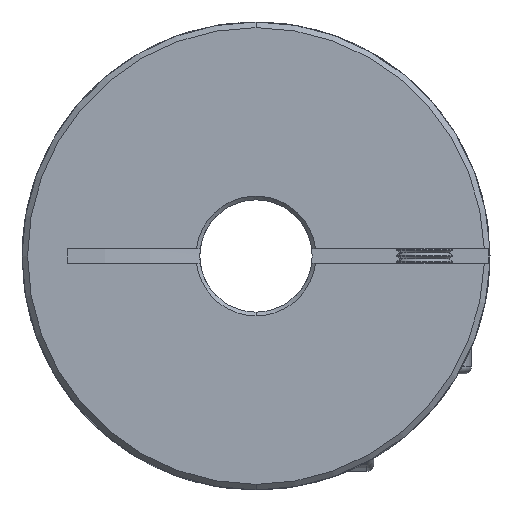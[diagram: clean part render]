
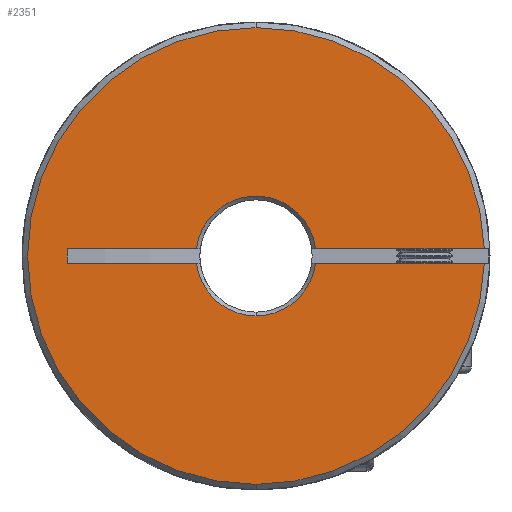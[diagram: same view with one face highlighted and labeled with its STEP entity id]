
A CAD part, front view. The second image highlights one B-rep face of the part: STEP entity #2351.
In plain terms, the highlighted planar face has unit normal (0, -1, 0).
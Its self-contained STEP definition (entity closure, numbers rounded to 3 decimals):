
#162 = VECTOR ( 'NONE', #15287, 1000. ) ;
#329 = AXIS2_PLACEMENT_3D ( 'NONE', #14187, #14240, #6246 ) ;
#347 = EDGE_CURVE ( 'NONE', #2383, #11440, #14284, .T. ) ;
#391 = ORIENTED_EDGE ( 'NONE', *, *, #16880, .T. ) ;
#571 = DIRECTION ( 'NONE',  ( 0., 0., 1. ) ) ;
#883 = AXIS2_PLACEMENT_3D ( 'NONE', #5618, #4684, #571 ) ;
#986 = EDGE_CURVE ( 'NONE', #3581, #4787, #14060, .T. ) ;
#1234 = ORIENTED_EDGE ( 'NONE', *, *, #16308, .T. ) ;
#1403 = CIRCLE ( 'NONE', #8759, 24.4 ) ;
#1496 = ORIENTED_EDGE ( 'NONE', *, *, #2846, .T. ) ;
#1960 = ORIENTED_EDGE ( 'NONE', *, *, #11089, .T. ) ;
#2075 = CIRCLE ( 'NONE', #6129, 6.4 ) ;
#2083 = DIRECTION ( 'NONE',  ( 0., 0., 1. ) ) ;
#2351 = ADVANCED_FACE ( 'NONE', ( #15705 ), #15198, .F. ) ;
#2383 = VERTEX_POINT ( 'NONE', #10276 ) ;
#2488 = CIRCLE ( 'NONE', #883, 6.4 ) ;
#2604 = CARTESIAN_POINT ( 'NONE',  ( -50., 0., 0.75 ) ) ;
#2636 = DIRECTION ( 'NONE',  ( 0., 0., 1. ) ) ;
#2658 = CIRCLE ( 'NONE', #16785, 24.4 ) ;
#2846 = EDGE_CURVE ( 'NONE', #9282, #7920, #16311, .T. ) ;
#3085 = CARTESIAN_POINT ( 'NONE',  ( 6.356, 0., -0.75 ) ) ;
#3494 = VERTEX_POINT ( 'NONE', #3085 ) ;
#3581 = VERTEX_POINT ( 'NONE', #8593 ) ;
#3726 = AXIS2_PLACEMENT_3D ( 'NONE', #13963, #9758, #7103 ) ;
#3884 = ORIENTED_EDGE ( 'NONE', *, *, #7086, .T. ) ;
#3924 = CARTESIAN_POINT ( 'NONE',  ( 6.356, 0., 0.75 ) ) ;
#3990 = ORIENTED_EDGE ( 'NONE', *, *, #5932, .T. ) ;
#4223 = VECTOR ( 'NONE', #2636, 1000. ) ;
#4365 = ORIENTED_EDGE ( 'NONE', *, *, #986, .T. ) ;
#4517 = CARTESIAN_POINT ( 'NONE',  ( -50., 0., -0.75 ) ) ;
#4525 = ORIENTED_EDGE ( 'NONE', *, *, #11975, .F. ) ;
#4633 = ORIENTED_EDGE ( 'NONE', *, *, #6725, .T. ) ;
#4635 = LINE ( 'NONE', #16394, #4223 ) ;
#4655 = VECTOR ( 'NONE', #8219, 1000. ) ;
#4684 = DIRECTION ( 'NONE',  ( 0., 1., 0. ) ) ;
#4724 = CARTESIAN_POINT ( 'NONE',  ( 0., 0., 0. ) ) ;
#4775 = ORIENTED_EDGE ( 'NONE', *, *, #16047, .F. ) ;
#4780 = DIRECTION ( 'NONE',  ( 0., 0., 1. ) ) ;
#4787 = VERTEX_POINT ( 'NONE', #6391 ) ;
#5558 = DIRECTION ( 'NONE',  ( 0., 1., 0. ) ) ;
#5603 = CARTESIAN_POINT ( 'NONE',  ( 0., 0., 0. ) ) ;
#5618 = CARTESIAN_POINT ( 'NONE',  ( 0., 0., 0. ) ) ;
#5633 = CARTESIAN_POINT ( 'NONE',  ( -20.149, 0., -0.75 ) ) ;
#5932 = EDGE_CURVE ( 'NONE', #3494, #2383, #2075, .T. ) ;
#6129 = AXIS2_PLACEMENT_3D ( 'NONE', #5603, #5558, #6925 ) ;
#6203 = AXIS2_PLACEMENT_3D ( 'NONE', #14298, #7354, #4780 ) ;
#6246 = DIRECTION ( 'NONE',  ( 0., 0., 1. ) ) ;
#6391 = CARTESIAN_POINT ( 'NONE',  ( 0., 0., -24.4 ) ) ;
#6515 = CARTESIAN_POINT ( 'NONE',  ( -6.356, 0., -0.75 ) ) ;
#6725 = EDGE_CURVE ( 'NONE', #4787, #16049, #1403, .T. ) ;
#6925 = DIRECTION ( 'NONE',  ( 0., 0., 1. ) ) ;
#7086 = EDGE_CURVE ( 'NONE', #7920, #3581, #2658, .T. ) ;
#7103 = DIRECTION ( 'NONE',  ( 0., 0., 1. ) ) ;
#7354 = DIRECTION ( 'NONE',  ( 0., 1., 0. ) ) ;
#7502 = CARTESIAN_POINT ( 'NONE',  ( 24.388, 0., -0.75 ) ) ;
#7920 = VERTEX_POINT ( 'NONE', #9555 ) ;
#8219 = DIRECTION ( 'NONE',  ( 1., 0., 0. ) ) ;
#8593 = CARTESIAN_POINT ( 'NONE',  ( 0., 0., 24.4 ) ) ;
#8635 = DIRECTION ( 'NONE',  ( 1., 0., 0. ) ) ;
#8717 = VECTOR ( 'NONE', #14616, 1000. ) ;
#8759 = AXIS2_PLACEMENT_3D ( 'NONE', #13429, #16103, #12189 ) ;
#9075 = VERTEX_POINT ( 'NONE', #16723 ) ;
#9282 = VERTEX_POINT ( 'NONE', #3924 ) ;
#9555 = CARTESIAN_POINT ( 'NONE',  ( 24.388, 0., 0.75 ) ) ;
#9744 = LINE ( 'NONE', #16828, #14204 ) ;
#9758 = DIRECTION ( 'NONE',  ( 0., 1., 0. ) ) ;
#9892 = VERTEX_POINT ( 'NONE', #12131 ) ;
#10171 = DIRECTION ( 'NONE',  ( 0., -1., 0. ) ) ;
#10276 = CARTESIAN_POINT ( 'NONE',  ( 0., 0., -6.4 ) ) ;
#10921 = LINE ( 'NONE', #4517, #162 ) ;
#11089 = EDGE_CURVE ( 'NONE', #9892, #9282, #2488, .T. ) ;
#11350 = EDGE_LOOP ( 'NONE', ( #4775, #3990, #14129, #4525, #391, #1234, #1960, #1496, #3884, #4365, #4633 ) ) ;
#11440 = VERTEX_POINT ( 'NONE', #6515 ) ;
#11975 = EDGE_CURVE ( 'NONE', #15445, #11440, #10921, .T. ) ;
#12131 = CARTESIAN_POINT ( 'NONE',  ( -6.356, 0., 0.75 ) ) ;
#12189 = DIRECTION ( 'NONE',  ( 0., 0., 1. ) ) ;
#13429 = CARTESIAN_POINT ( 'NONE',  ( 0., 0., 0. ) ) ;
#13760 = LINE ( 'NONE', #2604, #4655 ) ;
#13963 = CARTESIAN_POINT ( 'NONE',  ( -50., 0., 32.858 ) ) ;
#14060 = CIRCLE ( 'NONE', #329, 24.4 ) ;
#14129 = ORIENTED_EDGE ( 'NONE', *, *, #347, .T. ) ;
#14187 = CARTESIAN_POINT ( 'NONE',  ( 0., 0., 0. ) ) ;
#14204 = VECTOR ( 'NONE', #8635, 1000. ) ;
#14240 = DIRECTION ( 'NONE',  ( 0., -1., 0. ) ) ;
#14284 = CIRCLE ( 'NONE', #6203, 6.4 ) ;
#14298 = CARTESIAN_POINT ( 'NONE',  ( 0., 0., 0. ) ) ;
#14616 = DIRECTION ( 'NONE',  ( 1., 0., 0. ) ) ;
#14669 = CARTESIAN_POINT ( 'NONE',  ( -50., 0., 0.75 ) ) ;
#15198 = PLANE ( 'NONE',  #3726 ) ;
#15287 = DIRECTION ( 'NONE',  ( 1., 0., 0. ) ) ;
#15445 = VERTEX_POINT ( 'NONE', #5633 ) ;
#15705 = FACE_OUTER_BOUND ( 'NONE', #11350, .T. ) ;
#16047 = EDGE_CURVE ( 'NONE', #3494, #16049, #9744, .T. ) ;
#16049 = VERTEX_POINT ( 'NONE', #7502 ) ;
#16103 = DIRECTION ( 'NONE',  ( 0., -1., 0. ) ) ;
#16308 = EDGE_CURVE ( 'NONE', #9075, #9892, #13760, .T. ) ;
#16311 = LINE ( 'NONE', #14669, #8717 ) ;
#16394 = CARTESIAN_POINT ( 'NONE',  ( -20.149, 0., -0.75 ) ) ;
#16723 = CARTESIAN_POINT ( 'NONE',  ( -20.149, 0., 0.75 ) ) ;
#16785 = AXIS2_PLACEMENT_3D ( 'NONE', #4724, #10171, #2083 ) ;
#16828 = CARTESIAN_POINT ( 'NONE',  ( -50., 0., -0.75 ) ) ;
#16880 = EDGE_CURVE ( 'NONE', #15445, #9075, #4635, .T. ) ;
